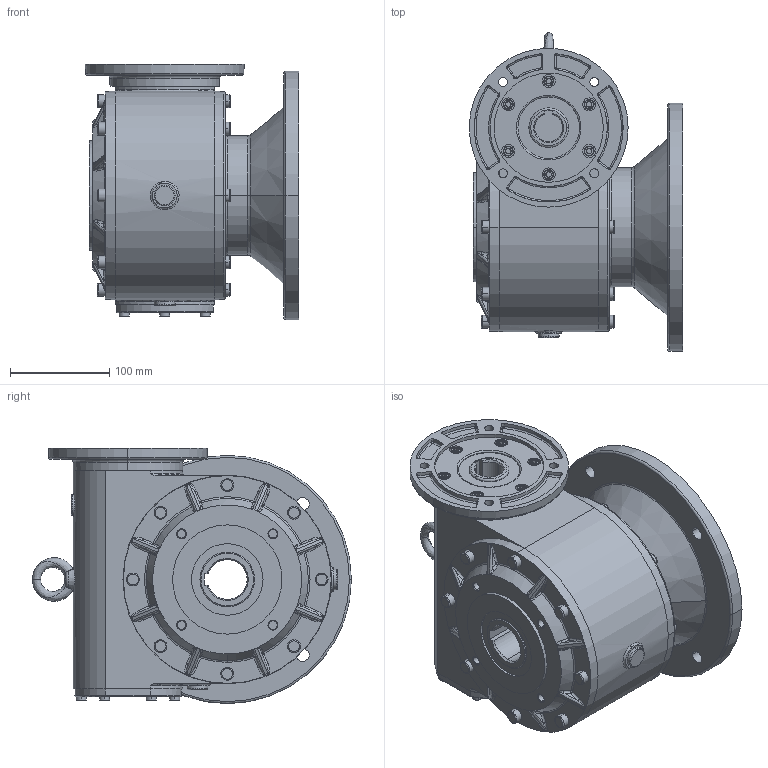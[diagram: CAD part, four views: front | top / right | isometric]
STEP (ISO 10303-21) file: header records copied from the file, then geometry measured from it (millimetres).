
FILE_DESCRIPTION (( 'STEP AP214' ), '1' );
FILE_NAME ('Sestava MRT100-FF-R.STEP', '2007-07-09T07:10:10', ( '' ), ( '' ), 'SwSTEP 2.0', 'SolidWorks 2004146', '' );
FILE_SCHEMA (( 'AUTOMOTIVE_DESIGN' ));
Length unit declared in the file: millimetre
Products named in the file (8): Pøíruba MRT100 kulatá _110-130-150; Víèko_Výchozí; Skøíò100_Výchozí; Pøíruba FT 100_Výchozí; A18151M_ANSI B18.15.1M Závìsný šroub M10; Pøíruba 100 FF_Výchozí; Sroub s vnitrnim sestihranem DIN 912 00457ROI; Sestava MRT100-FF-R
Assembly tree (12 placements, depth 2):
  Sestava MRT100-FF-R
    Víèko_Výchozí
    Sroub s vnitrnim sestihranem DIN 912 00457ROI  x6
    A18151M_ANSI B18.15.1M Závìsný šroub M10
    Skøíò100_Výchozí
    Pøíruba MRT100 kulatá _110-130-150
    Pøíruba FT 100_Výchozí
    Pøíruba 100 FF_Výchozí
Bounding box: 215 x 321 x 257 mm (x, y, z)
Volume: 6830395.4 mm3; surface area: 578967.6 mm2
Topology: 12 solids, 12 shells, 777 faces, 1686 edges, 999 vertices
Faces by surface type: cylinder 203, torus 166, plane 166, cone 142, bspline 74, sphere 26
Entity records: 84220 total; most frequent: CARTESIAN_POINT 69320, DIRECTION 3266, ORIENTED_EDGE 2892, AXIS2_PLACEMENT_3D 1459, EDGE_CURVE 1446, CIRCLE 871, VERTEX_POINT 869, EDGE_LOOP 749
